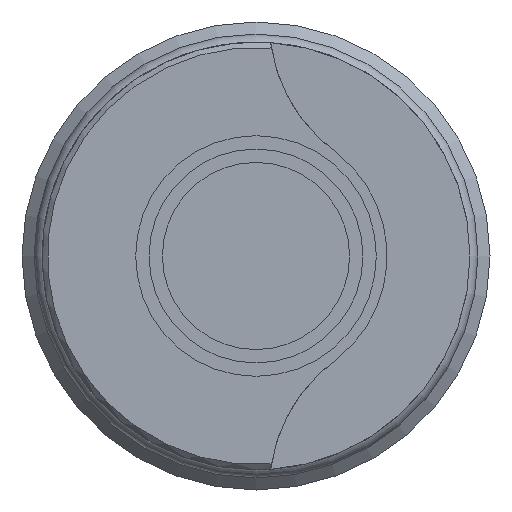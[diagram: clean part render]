
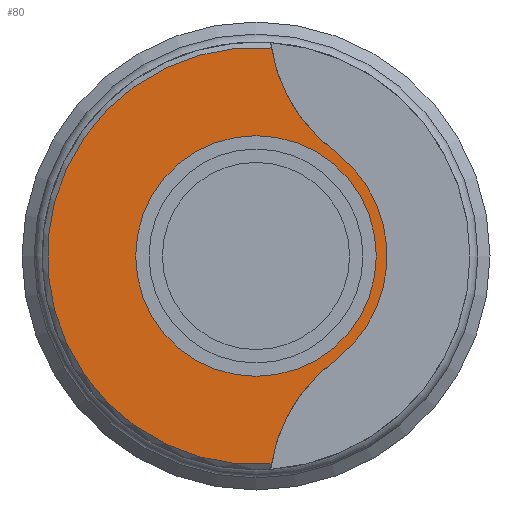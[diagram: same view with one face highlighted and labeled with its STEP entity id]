
A CAD part, left-side view. The second image highlights one B-rep face of the part: STEP entity #80.
In plain terms, the highlighted planar face has unit normal (-1, 0, 0).
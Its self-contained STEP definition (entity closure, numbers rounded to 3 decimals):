
#80 = ADVANCED_FACE( '', ( #197, #198 ), #199, .F. );
#197 = FACE_OUTER_BOUND( '', #374, .T. );
#198 = FACE_BOUND( '', #375, .T. );
#199 = PLANE( '', #376 );
#374 = EDGE_LOOP( '', ( #566, #567, #568, #569 ) );
#375 = EDGE_LOOP( '', ( #570 ) );
#376 = AXIS2_PLACEMENT_3D( '', #571, #572, #573 );
#566 = ORIENTED_EDGE( '', *, *, #930, .F. );
#567 = ORIENTED_EDGE( '', *, *, #918, .T. );
#568 = ORIENTED_EDGE( '', *, *, #911, .F. );
#569 = ORIENTED_EDGE( '', *, *, #931, .T. );
#570 = ORIENTED_EDGE( '', *, *, #932, .T. );
#571 = CARTESIAN_POINT( '', ( 0., 4.5, 0. ) );
#572 = DIRECTION( '', ( 1., 0., 0. ) );
#573 = DIRECTION( '', ( 0., 0., -1. ) );
#911 = EDGE_CURVE( '', #1053, #1054, #1055, .T. );
#918 = EDGE_CURVE( '', #1066, #1054, #1067, .T. );
#930 = EDGE_CURVE( '', #1066, #1085, #1086, .T. );
#931 = EDGE_CURVE( '', #1053, #1085, #1087, .T. );
#932 = EDGE_CURVE( '', #1088, #1088, #1089, .T. );
#1053 = VERTEX_POINT( '', #1261 );
#1054 = VERTEX_POINT( '', #1262 );
#1055 = CIRCLE( '', #1263, 4.9 );
#1066 = VERTEX_POINT( '', #1277 );
#1067 = CIRCLE( '', #1278, 6. );
#1085 = VERTEX_POINT( '', #1306 );
#1086 = CIRCLE( '', #1307, 7.8 );
#1087 = CIRCLE( '', #1308, 6. );
#1088 = VERTEX_POINT( '', #1309 );
#1089 = CIRCLE( '', #1310, 4.5 );
#1261 = CARTESIAN_POINT( '', ( 0., -3.087, 3.805 ) );
#1262 = CARTESIAN_POINT( '', ( 0., -3.087, -3.805 ) );
#1263 = AXIS2_PLACEMENT_3D( '', #1536, #1537, #1538 );
#1277 = CARTESIAN_POINT( '', ( 0., -0.578, -7.779 ) );
#1278 = AXIS2_PLACEMENT_3D( '', #1548, #1549, #1550 );
#1306 = CARTESIAN_POINT( '', ( 0., -0.578, 7.779 ) );
#1307 = AXIS2_PLACEMENT_3D( '', #1558, #1559, #1560 );
#1308 = AXIS2_PLACEMENT_3D( '', #1561, #1562, #1563 );
#1309 = CARTESIAN_POINT( '', ( 0., 0., -4.5 ) );
#1310 = AXIS2_PLACEMENT_3D( '', #1564, #1565, #1566 );
#1536 = CARTESIAN_POINT( '', ( 0., 0., 0. ) );
#1537 = DIRECTION( '', ( 1., 0., 0. ) );
#1538 = DIRECTION( '', ( 0., 0., -1. ) );
#1548 = CARTESIAN_POINT( '', ( 0., -6.5, -8.74 ) );
#1549 = DIRECTION( '', ( 1., 0., 0. ) );
#1550 = DIRECTION( '', ( 0., 0., -1. ) );
#1558 = CARTESIAN_POINT( '', ( 0., 0., 0. ) );
#1559 = DIRECTION( '', ( 1., 0., 0. ) );
#1560 = DIRECTION( '', ( 0., 0., -1. ) );
#1561 = CARTESIAN_POINT( '', ( 0., -6.5, 8.74 ) );
#1562 = DIRECTION( '', ( 1., 0., 0. ) );
#1563 = DIRECTION( '', ( 0., 0., -1. ) );
#1564 = CARTESIAN_POINT( '', ( 0., 0., 0. ) );
#1565 = DIRECTION( '', ( 1., 0., 0. ) );
#1566 = DIRECTION( '', ( 0., 0., -1. ) );
